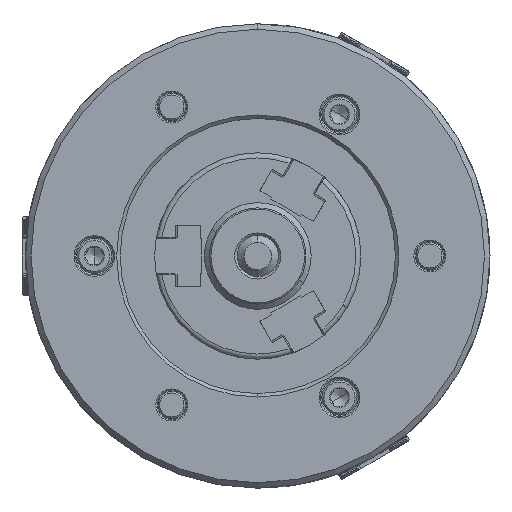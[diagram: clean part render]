
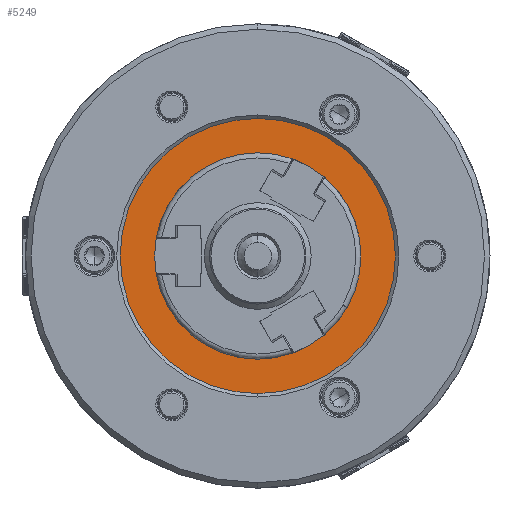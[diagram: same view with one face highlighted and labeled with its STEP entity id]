
A CAD part, left-side view. The second image highlights one B-rep face of the part: STEP entity #5249.
In plain terms, the highlighted planar face has unit normal (-1, 0, 0).
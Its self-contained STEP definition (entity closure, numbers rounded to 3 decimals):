
#131 = VERTEX_POINT ( 'NONE', #47985 ) ;
#1895 = CIRCLE ( 'NONE', #27530, 30. ) ;
#5043 = CARTESIAN_POINT ( 'NONE',  ( -48., 0., 40. ) ) ;
#5249 = ADVANCED_FACE ( 'NONE', ( #77089, #16122 ), #57013, .F. ) ;
#5435 = DIRECTION ( 'NONE',  ( 1., 0., 0. ) ) ;
#9917 = CIRCLE ( 'NONE', #11395, 40. ) ;
#11395 = AXIS2_PLACEMENT_3D ( 'NONE', #14001, #41121, #68266 ) ;
#12157 = CARTESIAN_POINT ( 'NONE',  ( -48., 0., 0. ) ) ;
#14001 = CARTESIAN_POINT ( 'NONE',  ( -48., 0., 0. ) ) ;
#16122 = FACE_BOUND ( 'NONE', #56628, .T. ) ;
#16562 = DIRECTION ( 'NONE',  ( 0., 0., -1. ) ) ;
#23869 = AXIS2_PLACEMENT_3D ( 'NONE', #12157, #5435, #32618 ) ;
#24343 = CARTESIAN_POINT ( 'NONE',  ( -48., 0., 30. ) ) ;
#24830 = VERTEX_POINT ( 'NONE', #24343 ) ;
#26252 = EDGE_CURVE ( 'NONE', #131, #24830, #1895, .T. ) ;
#27530 = AXIS2_PLACEMENT_3D ( 'NONE', #53179, #47840, #74978 ) ;
#27775 = DIRECTION ( 'NONE',  ( 1., 0., 0. ) ) ;
#28175 = CARTESIAN_POINT ( 'NONE',  ( -48., -40., 0. ) ) ;
#30319 = ORIENTED_EDGE ( 'NONE', *, *, #45336, .F. ) ;
#30753 = VERTEX_POINT ( 'NONE', #5043 ) ;
#32618 = DIRECTION ( 'NONE',  ( 0., 0., -1. ) ) ;
#33893 = CIRCLE ( 'NONE', #23869, 40. ) ;
#38581 = ORIENTED_EDGE ( 'NONE', *, *, #26252, .T. ) ;
#40042 = ORIENTED_EDGE ( 'NONE', *, *, #57905, .T. ) ;
#40103 = EDGE_LOOP ( 'NONE', ( #84819, #30319 ) ) ;
#41121 = DIRECTION ( 'NONE',  ( 1., 0., 0. ) ) ;
#42779 = AXIS2_PLACEMENT_3D ( 'NONE', #77114, #27775, #49109 ) ;
#45336 = EDGE_CURVE ( 'NONE', #30753, #45416, #9917, .T. ) ;
#45416 = VERTEX_POINT ( 'NONE', #47638 ) ;
#47638 = CARTESIAN_POINT ( 'NONE',  ( -48., 0., -40. ) ) ;
#47840 = DIRECTION ( 'NONE',  ( 1., 0., 0. ) ) ;
#47985 = CARTESIAN_POINT ( 'NONE',  ( -48., 0., -30. ) ) ;
#49109 = DIRECTION ( 'NONE',  ( 0., 0., -1. ) ) ;
#53179 = CARTESIAN_POINT ( 'NONE',  ( -48., 0., 0. ) ) ;
#56628 = EDGE_LOOP ( 'NONE', ( #38581, #40042 ) ) ;
#57013 = PLANE ( 'NONE',  #85112 ) ;
#57905 = EDGE_CURVE ( 'NONE', #24830, #131, #65521, .T. ) ;
#61143 = EDGE_CURVE ( 'NONE', #45416, #30753, #33893, .T. ) ;
#65521 = CIRCLE ( 'NONE', #42779, 30. ) ;
#68266 = DIRECTION ( 'NONE',  ( 0., 0., -1. ) ) ;
#74978 = DIRECTION ( 'NONE',  ( 0., 0., -1. ) ) ;
#77089 = FACE_OUTER_BOUND ( 'NONE', #40103, .T. ) ;
#77114 = CARTESIAN_POINT ( 'NONE',  ( -48., 0., 0. ) ) ;
#83361 = DIRECTION ( 'NONE',  ( 1., 0., 0. ) ) ;
#84819 = ORIENTED_EDGE ( 'NONE', *, *, #61143, .F. ) ;
#85112 = AXIS2_PLACEMENT_3D ( 'NONE', #28175, #83361, #16562 ) ;
